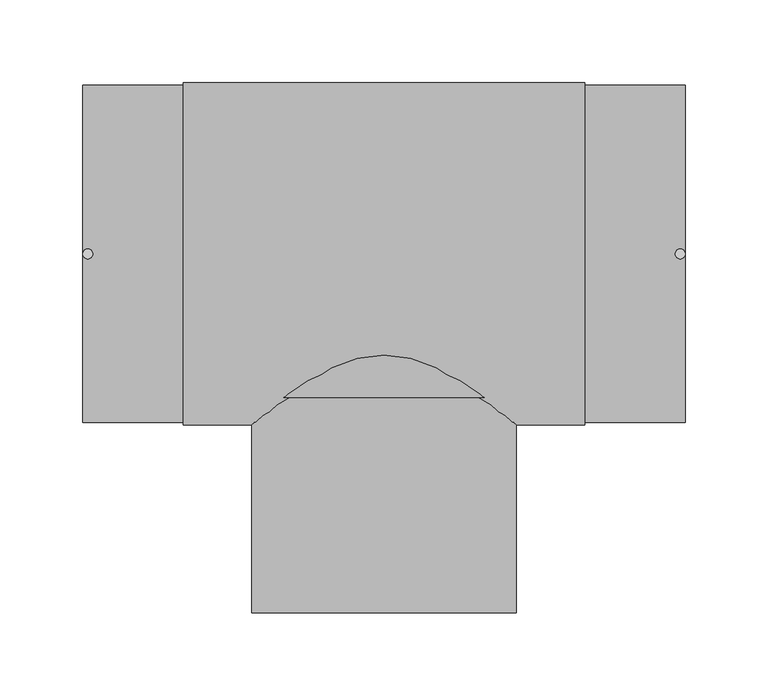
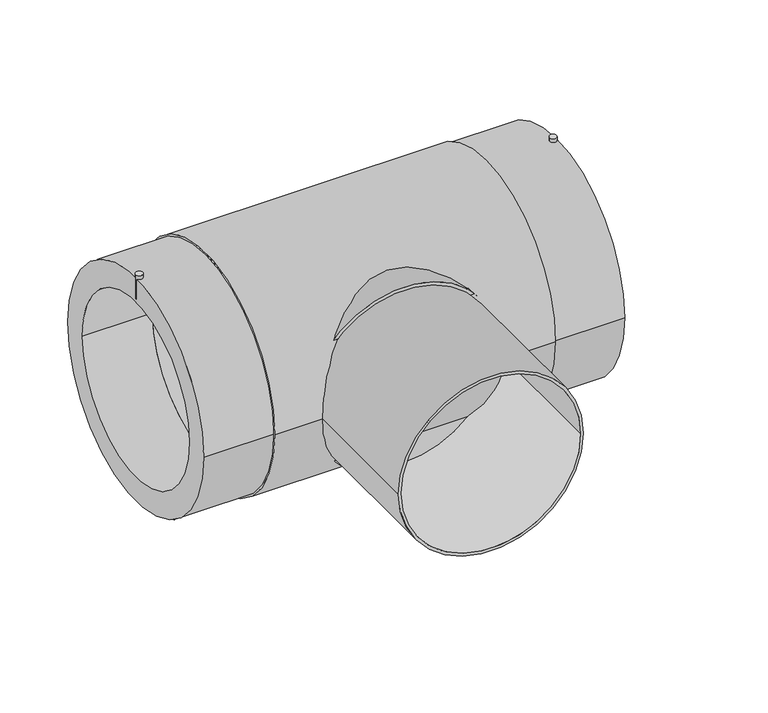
"""IFC4 building model written with IfcOpenShell, lengths in millimetres: pipe fitting geometry, EGB_VASEN_ PPR_Te electrosoldable WXRD300_Te reducida electrosoldable WXRD310 : Te electrosoldable."""

from ifc_helpers import new_model, si_unit, point, frame, frame_2d, origin, origin_2d, place, context, project, spatial, circle_curve, trimmed, segment, composite_curve, outline, extrude, source, transform, mapped, element, save


def pipe_fitting_60401732(model_context):
    return source(origin(), model_context, "Body", "SweptSolid", [
        extrude(outline(composite_curve([segment(trimmed(circle_curve(frame_2d((-179.0, 0.0)), 3.0), [point((-182.0, 0.0))], [point((-176.0, 0.0))], False, "CARTESIAN"), True, "CONTINUOUS"), segment(trimmed(circle_curve(frame_2d((-179.0, 0.0)), 3.0), [point((-176.0, 0.0))], [point((-182.0, 0.0))], False, "CARTESIAN"), True, "CONTINUOUS")], self_intersect=False)), frame((0.0, 0.0, 83.0), z_axis=(0.0, 0.0, 1.0), x_axis=(1.0, 0.0, 0.0)), (0.0, 0.0, 1.0), 22.0),
        extrude(outline(composite_curve([segment(trimmed(circle_curve(frame_2d((179.0, 0.0)), 3.0), [point((176.0, 0.0))], [point((182.0, 0.0))], False, "CARTESIAN"), True, "CONTINUOUS"), segment(trimmed(circle_curve(frame_2d((179.0, 0.0)), 3.0), [point((182.0, 0.0))], [point((176.0, 0.0))], False, "CARTESIAN"), True, "CONTINUOUS")], self_intersect=False)), frame((0.0, 0.0, 83.0), z_axis=(0.0, 0.0, 1.0), x_axis=(1.0, 0.0, 0.0)), (0.0, 0.0, 1.0), 22.0),
        extrude(outline(composite_curve([segment(trimmed(circle_curve(origin_2d(), 82.5), [point((0.0, 82.5))], [point((0.0, -82.5))], False, "CARTESIAN"), True, "CONTINUOUS"), segment(trimmed(circle_curve(origin_2d(), 82.5), [point((0.0, -82.5))], [point((0.0, 82.5))], False, "CARTESIAN"), True, "CONTINUOUS")], self_intersect=False)), frame((0.0, -86.8, 0.0), z_axis=(0.0, 1.0, 0.0), x_axis=(0.0, 0.0, 1.0)), (0.0, 0.0, 1.0), 86.8),
        extrude(outline(composite_curve([segment(trimmed(circle_curve(origin_2d(), 80.0), [point((0.0, -80.0))], [point((0.0, 80.0))], False, "CARTESIAN"), True, "CONTINUOUS"), segment(trimmed(circle_curve(origin_2d(), 80.0), [point((0.0, 80.0))], [point((0.0, -80.0))], False, "CARTESIAN"), True, "CONTINUOUS")], self_intersect=False), holes=[composite_curve([segment(trimmed(circle_curve(origin_2d(), 77.5), [point((0.0, -77.5))], [point((0.0, 77.5))], True, "CARTESIAN"), True, "CONTINUOUS"), segment(trimmed(circle_curve(origin_2d(), 77.5), [point((0.0, 77.5))], [point((0.0, -77.5))], True, "CARTESIAN"), True, "CONTINUOUS")], self_intersect=False)]), frame((0.0, -217.0, 0.0), z_axis=(0.0, 1.0, 0.0), x_axis=(0.0, 0.0, 1.0)), (0.0, 0.0, 1.0), 130.2),
        extrude(outline(composite_curve([segment(trimmed(circle_curve(origin_2d(), 103.5), [point((-103.5, 0.0))], [point((103.5, 0.0))], False, "CARTESIAN"), True, "CONTINUOUS"), segment(trimmed(circle_curve(origin_2d(), 103.5), [point((103.5, 0.0))], [point((-103.5, 0.0))], False, "CARTESIAN"), True, "CONTINUOUS")], self_intersect=False), holes=[composite_curve([segment(trimmed(circle_curve(origin_2d(), 80.0), [point((-80.0, 0.0))], [point((80.0, 0.0))], True, "CARTESIAN"), True, "CONTINUOUS"), segment(trimmed(circle_curve(origin_2d(), 80.0), [point((80.0, 0.0))], [point((-80.0, 0.0))], True, "CARTESIAN"), True, "CONTINUOUS")], self_intersect=False)]), frame((-121.3333333, 0.0, 0.0), z_axis=(1.0, 0.0, 0.0), x_axis=(0.0, 1.0, 0.0)), (0.0, 0.0, 1.0), 242.6666667),
        extrude(outline(composite_curve([segment(trimmed(circle_curve(origin_2d(), 102.0), [point((-102.0, 0.0))], [point((102.0, 0.0))], False, "CARTESIAN"), True, "CONTINUOUS"), segment(trimmed(circle_curve(origin_2d(), 102.0), [point((102.0, 0.0))], [point((-102.0, 0.0))], False, "CARTESIAN"), True, "CONTINUOUS")], self_intersect=False), holes=[composite_curve([segment(trimmed(circle_curve(origin_2d(), 80.0), [point((-80.0, 0.0))], [point((80.0, 0.0))], True, "CARTESIAN"), True, "CONTINUOUS"), segment(trimmed(circle_curve(origin_2d(), 80.0), [point((80.0, 0.0))], [point((-80.0, 0.0))], True, "CARTESIAN"), True, "CONTINUOUS")], self_intersect=False)]), frame((-182.0, 0.0, 0.0), z_axis=(1.0, 0.0, 0.0), x_axis=(0.0, 1.0, 0.0)), (0.0, 0.0, 1.0), 364.0),
    ])


if __name__ == "__main__":
    model = new_model("IFC4")
    model_context = context("Model", 3, world=origin())
    ifc_project = project(units=[si_unit("LENGTHUNIT", "METRE", prefix="MILLI")], contexts=[model_context])
    site = spatial("IfcSite", under=ifc_project)
    building = spatial("IfcBuilding", under=site)
    placement = place(None, origin())
    pipe_fitting_shape = pipe_fitting_60401732(model_context)
    element("IfcPipeFitting", 1, ObjectType="EGB_VASEN_ PPR_Te electrosoldable WXRD300_Te reducida electrosoldable WXRD310 : Te electrosoldable", at=placement, inside=building, context=model_context, shape_type="MappedRepresentation", body=[
        mapped(pipe_fitting_shape, transform((0.0, 0.0, 0.0), x_axis=(1.0, 0.0, 0.0), y_axis=(0.0, 1.0, 0.0), z_axis=(0.0, 0.0, 1.0))),
    ])
    save(model, "model.ifc")
